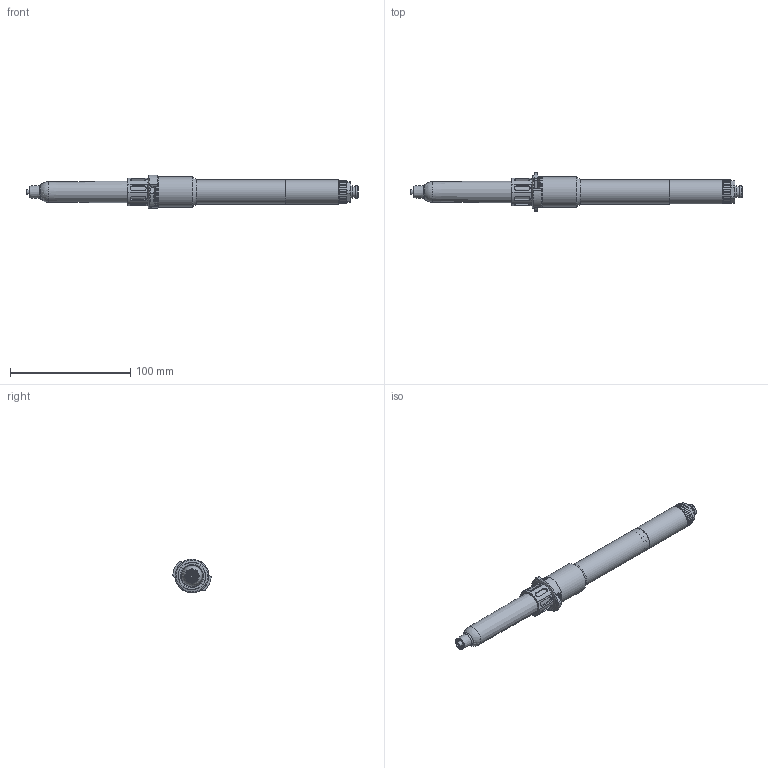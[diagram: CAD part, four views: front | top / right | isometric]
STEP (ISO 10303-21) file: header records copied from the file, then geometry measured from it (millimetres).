
FILE_DESCRIPTION (( 'STEP AP214' ), '1' );
FILE_NAME ('DA1000V 10cc.STEP', '2025-01-30T14:17:13', ( '' ), ( '' ), 'SwSTEP 2.0', 'SolidWorks 2024', '' );
FILE_SCHEMA (( 'AUTOMOTIVE_DESIGN' ));
Length unit declared in the file: millimetre
Products named in the file (1): DA1000V 10cc
Bounding box: 275.92 x 31.87 x 27.99 mm (x, y, z)
Volume: 27881.5 mm3; surface area: 37448.5 mm2
Topology: 6 solids, 6 shells, 419 faces, 1128 edges, 736 vertices
Faces by surface type: plane 151, cone 134, cylinder 116, bspline 11, torus 6, sphere 1
Full cylindrical faces by diameter (mm): 2.05 x1, 8 x1, 8.5 x1, 9 x1, 10 x2, 15.4 x1, 17 x1, 17.1 x1, 17.2 x1, 17.9 x1, 18 x13, 18.3 x1, 18.5 x9, 18.7 x1, 19 x3, 19.1 x1, 20 x2, 21.5 x5, 22.2 x1, 25 x4, 28 x1
Entity records: 13685 total; most frequent: CARTESIAN_POINT 4467, DIRECTION 1804, ORIENTED_EDGE 1794, EDGE_CURVE 897, AXIS2_PLACEMENT_3D 736, VERTEX_POINT 645, EDGE_LOOP 602, FACE_OUTER_BOUND 479
